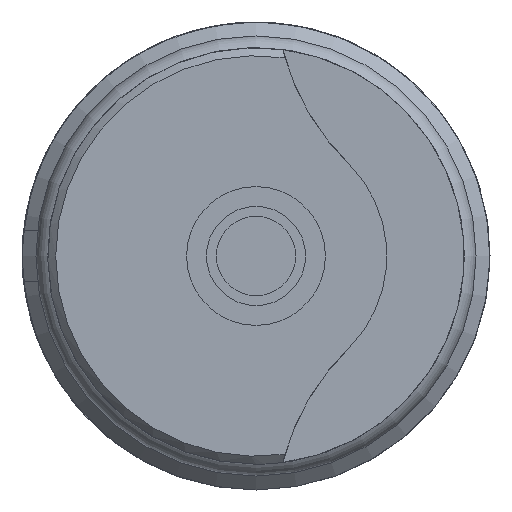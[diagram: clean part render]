
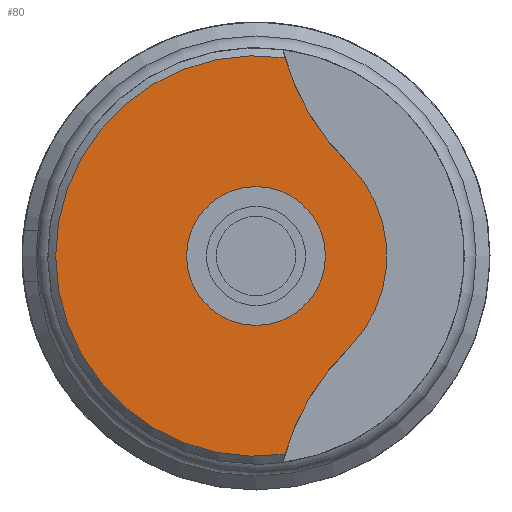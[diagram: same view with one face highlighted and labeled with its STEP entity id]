
A CAD part, left-side view. The second image highlights one B-rep face of the part: STEP entity #80.
In plain terms, the highlighted planar face has unit normal (-1, 0, 0).
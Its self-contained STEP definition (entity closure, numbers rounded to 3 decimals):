
#80 = ADVANCED_FACE( '', ( #198, #199 ), #200, .F. );
#198 = FACE_OUTER_BOUND( '', #365, .T. );
#199 = FACE_BOUND( '', #366, .T. );
#200 = PLANE( '', #367 );
#365 = EDGE_LOOP( '', ( #543, #544, #545, #546 ) );
#366 = EDGE_LOOP( '', ( #547 ) );
#367 = AXIS2_PLACEMENT_3D( '', #548, #549, #550 );
#543 = ORIENTED_EDGE( '', *, *, #902, .F. );
#544 = ORIENTED_EDGE( '', *, *, #903, .T. );
#545 = ORIENTED_EDGE( '', *, *, #904, .F. );
#546 = ORIENTED_EDGE( '', *, *, #905, .T. );
#547 = ORIENTED_EDGE( '', *, *, #906, .T. );
#548 = CARTESIAN_POINT( '', ( 0., 1.75, 0. ) );
#549 = DIRECTION( '', ( 1., 0., 0. ) );
#550 = DIRECTION( '', ( 0., 0., -1. ) );
#902 = EDGE_CURVE( '', #1058, #1059, #1060, .T. );
#903 = EDGE_CURVE( '', #1058, #1061, #1062, .T. );
#904 = EDGE_CURVE( '', #1063, #1061, #1064, .T. );
#905 = EDGE_CURVE( '', #1063, #1059, #1065, .T. );
#906 = EDGE_CURVE( '', #1066, #1066, #1067, .T. );
#1058 = VERTEX_POINT( '', #1277 );
#1059 = VERTEX_POINT( '', #1278 );
#1060 = CIRCLE( '', #1279, 5.05 );
#1061 = VERTEX_POINT( '', #1280 );
#1062 = CIRCLE( '', #1281, 6. );
#1063 = VERTEX_POINT( '', #1282 );
#1064 = CIRCLE( '', #1283, 3.3 );
#1065 = CIRCLE( '', #1284, 6. );
#1066 = VERTEX_POINT( '', #1285 );
#1067 = CIRCLE( '', #1286, 1.75 );
#1277 = CARTESIAN_POINT( '', ( 0., -0.732, -4.997 ) );
#1278 = CARTESIAN_POINT( '', ( 0., -0.732, 4.997 ) );
#1279 = AXIS2_PLACEMENT_3D( '', #1541, #1542, #1543 );
#1280 = CARTESIAN_POINT( '', ( 0., -2.352, -2.315 ) );
#1281 = AXIS2_PLACEMENT_3D( '', #1544, #1545, #1546 );
#1282 = CARTESIAN_POINT( '', ( 0., -2.352, 2.315 ) );
#1283 = AXIS2_PLACEMENT_3D( '', #1547, #1548, #1549 );
#1284 = AXIS2_PLACEMENT_3D( '', #1550, #1551, #1552 );
#1285 = CARTESIAN_POINT( '', ( 0., 0., -1.75 ) );
#1286 = AXIS2_PLACEMENT_3D( '', #1553, #1554, #1555 );
#1541 = CARTESIAN_POINT( '', ( 0., 0., 0. ) );
#1542 = DIRECTION( '', ( 1., 0., 0. ) );
#1543 = DIRECTION( '', ( 0., 0., -1. ) );
#1544 = CARTESIAN_POINT( '', ( 0., -6.5, -6.65 ) );
#1545 = DIRECTION( '', ( 1., 0., 0. ) );
#1546 = DIRECTION( '', ( 0., 0., -1. ) );
#1547 = CARTESIAN_POINT( '', ( 0., 0., 0. ) );
#1548 = DIRECTION( '', ( 1., 0., 0. ) );
#1549 = DIRECTION( '', ( 0., 0., -1. ) );
#1550 = CARTESIAN_POINT( '', ( 0., -6.5, 6.65 ) );
#1551 = DIRECTION( '', ( 1., 0., 0. ) );
#1552 = DIRECTION( '', ( 0., 0., -1. ) );
#1553 = CARTESIAN_POINT( '', ( 0., 0., 0. ) );
#1554 = DIRECTION( '', ( 1., 0., 0. ) );
#1555 = DIRECTION( '', ( 0., 0., -1. ) );
